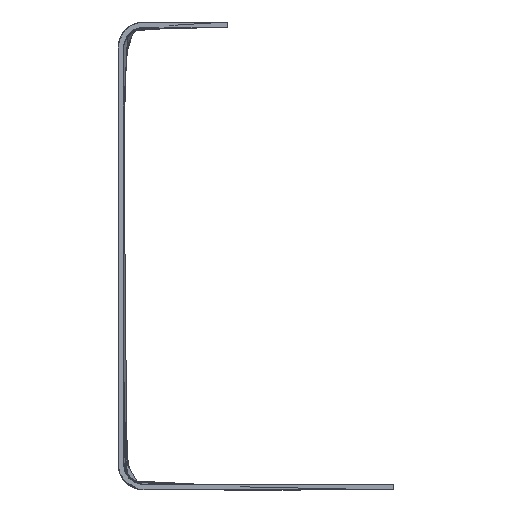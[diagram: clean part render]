
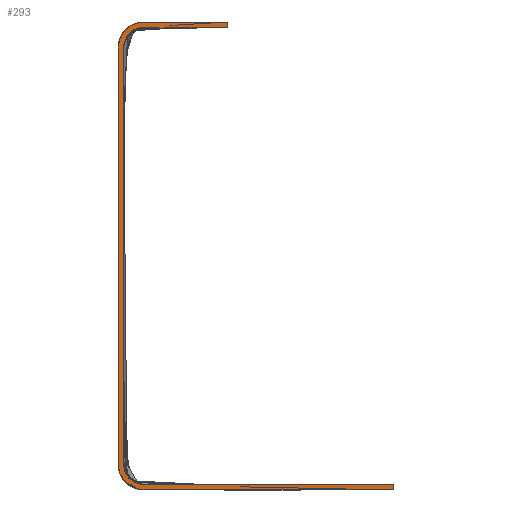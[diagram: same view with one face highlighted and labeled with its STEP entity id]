
A CAD part, front view. The second image highlights one B-rep face of the part: STEP entity #293.
In plain terms, the highlighted planar face has unit normal (0, -1, 0).
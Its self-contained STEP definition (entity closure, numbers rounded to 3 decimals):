
#25=(
BOUNDED_CURVE()
B_SPLINE_CURVE(2,(#1585,#1586,#1587,#1588,#1589,#1590,#1591,#1592,#1593,
#1594,#1595),.UNSPECIFIED.,.F.,.F.)
B_SPLINE_CURVE_WITH_KNOTS((3,2,2,2,2,3),(79.283,87.283,
90.425,130.425,133.566,157.566),.UNSPECIFIED.)
CURVE()
GEOMETRIC_REPRESENTATION_ITEM()
RATIONAL_B_SPLINE_CURVE((1.,1.,1.,0.707,1.,1.,1.,0.707,
1.,1.,1.))
REPRESENTATION_ITEM($)
);
#26=(
BOUNDED_CURVE()
B_SPLINE_CURVE(2,(#1598,#1599,#1600,#1601,#1602,#1603,#1604,#1605,#1606,
#1607,#1608),.UNSPECIFIED.,.F.,.F.)
B_SPLINE_CURVE_WITH_KNOTS((3,2,2,2,2,3),(0.5,24.5,27.642,67.642,
70.783,78.783),.UNSPECIFIED.)
CURVE()
GEOMETRIC_REPRESENTATION_ITEM()
RATIONAL_B_SPLINE_CURVE((1.,1.,1.,0.707,1.,1.,1.,0.707,
1.,1.,1.))
REPRESENTATION_ITEM($)
);
#293=ADVANCED_FACE($,(#317),#765,.T.);
#317=FACE_OUTER_BOUND($,#347,.T.);
#347=EDGE_LOOP($,(#476,#477,#478,#479));
#476=ORIENTED_EDGE($,*,*,#609,.F.);
#477=ORIENTED_EDGE($,*,*,#610,.F.);
#478=ORIENTED_EDGE($,*,*,#611,.F.);
#479=ORIENTED_EDGE($,*,*,#608,.F.);
#608=EDGE_CURVE($,#740,#743,#888,.T.);
#609=EDGE_CURVE($,#741,#740,#25,.T.);
#610=EDGE_CURVE($,#742,#741,#889,.T.);
#611=EDGE_CURVE($,#743,#742,#26,.T.);
#740=VERTEX_POINT($,#1610);
#741=VERTEX_POINT($,#1611);
#742=VERTEX_POINT($,#1612);
#743=VERTEX_POINT($,#1613);
#765=PLANE($,#931);
#888=B_SPLINE_CURVE_WITH_KNOTS($,1,(#1583,#1584),.UNSPECIFIED.,.F.,.F.,(2,
2),(0.,0.5),.UNSPECIFIED.);
#889=B_SPLINE_CURVE_WITH_KNOTS($,1,(#1596,#1597),.UNSPECIFIED.,.F.,.F.,(2,
2),(78.783,79.283),.UNSPECIFIED.);
#931=AXIS2_PLACEMENT_3D($,#1609,#956,$);
#956=DIRECTION($,(0.,-1.,0.));
#1583=CARTESIAN_POINT($,(0.,0.,0.));
#1584=CARTESIAN_POINT($,(0.,0.,-0.5));
#1585=CARTESIAN_POINT($,(-16.,0.,44.));
#1586=CARTESIAN_POINT($,(-20.,0.,44.));
#1587=CARTESIAN_POINT($,(-24.,0.,44.));
#1588=CARTESIAN_POINT($,(-26.,0.,44.));
#1589=CARTESIAN_POINT($,(-26.,0.,42.));
#1590=CARTESIAN_POINT($,(-26.,0.,22.));
#1591=CARTESIAN_POINT($,(-26.,0.,2.));
#1592=CARTESIAN_POINT($,(-26.,0.,0.));
#1593=CARTESIAN_POINT($,(-24.,0.,0.));
#1594=CARTESIAN_POINT($,(-12.,0.,0.));
#1595=CARTESIAN_POINT($,(0.,0.,0.));
#1596=CARTESIAN_POINT($,(-16.,0.,44.5));
#1597=CARTESIAN_POINT($,(-16.,0.,44.));
#1598=CARTESIAN_POINT($,(0.,0.,-0.5));
#1599=CARTESIAN_POINT($,(-12.,0.,-0.5));
#1600=CARTESIAN_POINT($,(-24.,0.,-0.5));
#1601=CARTESIAN_POINT($,(-26.5,0.,-0.5));
#1602=CARTESIAN_POINT($,(-26.5,0.,2.));
#1603=CARTESIAN_POINT($,(-26.5,0.,22.));
#1604=CARTESIAN_POINT($,(-26.5,0.,42.));
#1605=CARTESIAN_POINT($,(-26.5,0.,44.5));
#1606=CARTESIAN_POINT($,(-24.,0.,44.5));
#1607=CARTESIAN_POINT($,(-20.,0.,44.5));
#1608=CARTESIAN_POINT($,(-16.,0.,44.5));
#1609=CARTESIAN_POINT($,(-26.5,0.,44.5));
#1610=CARTESIAN_POINT($,(0.,0.,0.));
#1611=CARTESIAN_POINT($,(-16.,0.,44.));
#1612=CARTESIAN_POINT($,(-16.,0.,44.5));
#1613=CARTESIAN_POINT($,(0.,0.,-0.5));
